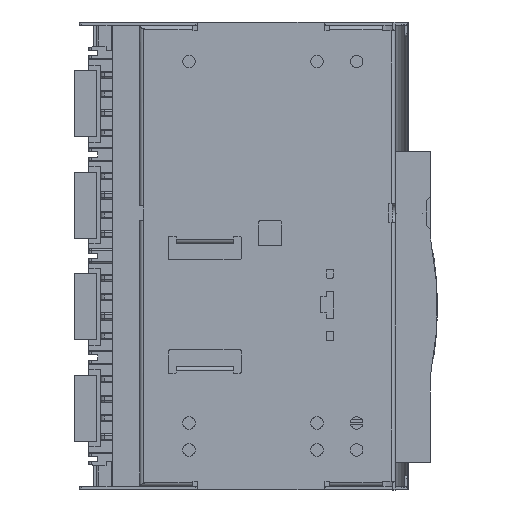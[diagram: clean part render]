
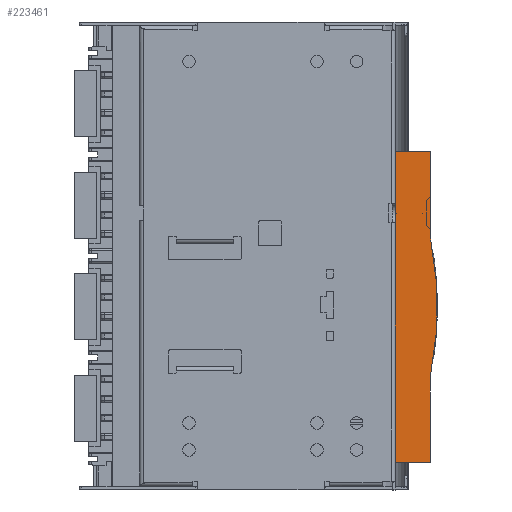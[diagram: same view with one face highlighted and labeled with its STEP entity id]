
A CAD part, front view. The second image highlights one B-rep face of the part: STEP entity #223461.
In plain terms, the highlighted planar face has unit normal (0, -1, 0).
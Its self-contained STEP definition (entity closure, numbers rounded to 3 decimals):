
#2361 = CARTESIAN_POINT ( 'NONE',  ( 203.456, 188.813, 30.688 ) ) ;
#6725 = CARTESIAN_POINT ( 'NONE',  ( 590.656, 188.813, 206.688 ) ) ;
#8335 = DIRECTION ( 'NONE',  ( 0., 0., -1. ) ) ;
#9678 = DIRECTION ( 'NONE',  ( 0., 0., 1. ) ) ;
#19831 = DIRECTION ( 'NONE',  ( 0., 1., 0. ) ) ;
#25200 = EDGE_CURVE ( 'NONE', #109829, #143010, #222506, .T. ) ;
#34228 = EDGE_CURVE ( 'NONE', #152652, #109829, #218999, .T. ) ;
#38785 = DIRECTION ( 'NONE',  ( 0., 0., -1. ) ) ;
#40327 = DIRECTION ( 'NONE',  ( 1., 0., 0. ) ) ;
#40501 = LINE ( 'NONE', #6725, #74625 ) ;
#50188 = ORIENTED_EDGE ( 'NONE', *, *, #113842, .F. ) ;
#53650 = ORIENTED_EDGE ( 'NONE', *, *, #67563, .F. ) ;
#56483 = CIRCLE ( 'NONE', #102173, 395. ) ;
#60069 = ORIENTED_EDGE ( 'NONE', *, *, #193637, .F. ) ;
#65340 = VECTOR ( 'NONE', #9678, 1000. ) ;
#67563 = EDGE_CURVE ( 'NONE', #67900, #152652, #56483, .T. ) ;
#67900 = VERTEX_POINT ( 'NONE', #84569 ) ;
#74625 = VECTOR ( 'NONE', #8335, 1000. ) ;
#76038 = DIRECTION ( 'NONE',  ( 0., 1., 0. ) ) ;
#81740 = CARTESIAN_POINT ( 'NONE',  ( 550.656, 188.813, 206.688 ) ) ;
#84569 = CARTESIAN_POINT ( 'NONE',  ( 590.656, 188.813, 108.798 ) ) ;
#88340 = DIRECTION ( 'NONE',  ( -1., 0., 0. ) ) ;
#91448 = ORIENTED_EDGE ( 'NONE', *, *, #25200, .F. ) ;
#98742 = EDGE_LOOP ( 'NONE', ( #91448, #104696, #53650, #50188, #60069, #145733 ) ) ;
#102173 = AXIS2_PLACEMENT_3D ( 'NONE', #202474, #76038, #40327 ) ;
#104279 = EDGE_CURVE ( 'NONE', #143010, #232203, #226596, .T. ) ;
#104696 = ORIENTED_EDGE ( 'NONE', *, *, #34228, .F. ) ;
#109829 = VERTEX_POINT ( 'NONE', #162336 ) ;
#113842 = EDGE_CURVE ( 'NONE', #202118, #67900, #40501, .T. ) ;
#116780 = AXIS2_PLACEMENT_3D ( 'NONE', #2361, #19831, #38785 ) ;
#119703 = CARTESIAN_POINT ( 'NONE',  ( 590.656, 188.813, -47.422 ) ) ;
#119886 = VECTOR ( 'NONE', #169881, 1000. ) ;
#143010 = VERTEX_POINT ( 'NONE', #157134 ) ;
#145733 = ORIENTED_EDGE ( 'NONE', *, *, #104279, .F. ) ;
#146092 = VECTOR ( 'NONE', #88340, 1000. ) ;
#152652 = VERTEX_POINT ( 'NONE', #119703 ) ;
#157134 = CARTESIAN_POINT ( 'NONE',  ( 550.656, 188.813, -145.312 ) ) ;
#162336 = CARTESIAN_POINT ( 'NONE',  ( 590.656, 188.813, -145.312 ) ) ;
#163378 = CARTESIAN_POINT ( 'NONE',  ( 550.656, 188.813, -145.312 ) ) ;
#168039 = CARTESIAN_POINT ( 'NONE',  ( 590.656, 188.813, -145.312 ) ) ;
#169881 = DIRECTION ( 'NONE',  ( 1., 0., 0. ) ) ;
#178638 = CARTESIAN_POINT ( 'NONE',  ( 550.656, 188.813, 206.688 ) ) ;
#186139 = DIRECTION ( 'NONE',  ( 0., 0., -1. ) ) ;
#187786 = VECTOR ( 'NONE', #186139, 1000. ) ;
#187972 = CARTESIAN_POINT ( 'NONE',  ( 590.656, 188.813, 206.688 ) ) ;
#193473 = LINE ( 'NONE', #224277, #119886 ) ;
#193637 = EDGE_CURVE ( 'NONE', #232203, #202118, #193473, .T. ) ;
#200983 = PLANE ( 'NONE',  #116780 ) ;
#202118 = VERTEX_POINT ( 'NONE', #187972 ) ;
#202474 = CARTESIAN_POINT ( 'NONE',  ( 203.456, 188.813, 30.688 ) ) ;
#218999 = LINE ( 'NONE', #168039, #187786 ) ;
#222506 = LINE ( 'NONE', #163378, #146092 ) ;
#223461 = ADVANCED_FACE ( 'NONE', ( #224065 ), #200983, .F. ) ;
#224065 = FACE_OUTER_BOUND ( 'NONE', #98742, .T. ) ;
#224277 = CARTESIAN_POINT ( 'NONE',  ( 550.656, 188.813, 206.688 ) ) ;
#226596 = LINE ( 'NONE', #81740, #65340 ) ;
#232203 = VERTEX_POINT ( 'NONE', #178638 ) ;
